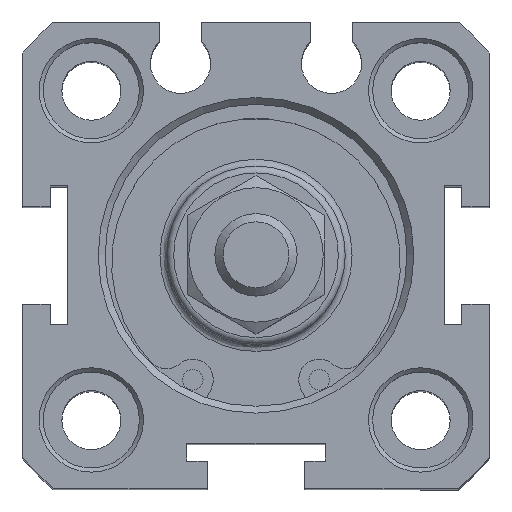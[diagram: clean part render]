
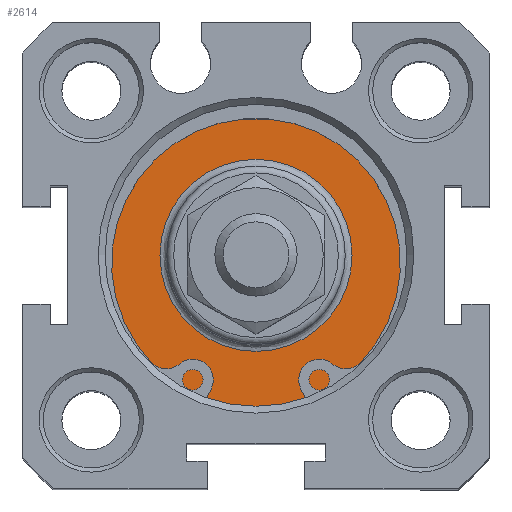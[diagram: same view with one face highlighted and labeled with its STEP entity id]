
A CAD part, top view. The second image highlights one B-rep face of the part: STEP entity #2614.
In plain terms, the highlighted planar face has unit normal (0, 0, 1).
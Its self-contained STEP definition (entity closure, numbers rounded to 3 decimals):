
#2552=CARTESIAN_POINT('',(0.957,6.522,56.8));
#2553=VERTEX_POINT('',#2552);
#2554=CARTESIAN_POINT('',(0.957,-0.478,56.8));
#2555=DIRECTION('',(0.0,0.0,1.0));
#2556=DIRECTION('',(0.0,-1.0,0.0));
#2557=AXIS2_PLACEMENT_3D('',#2554,#2555,#2556);
#2558=CIRCLE('',#2557,7.);
#2559=EDGE_CURVE('',#2553,#2553,#2558,.T.);
#2595=CARTESIAN_POINT('',(0.957,8.272,56.8));
#2596=DIRECTION('',(0.0,0.0,1.0));
#2597=DIRECTION('',(1.0,0.0,0.0));
#2598=AXIS2_PLACEMENT_3D('',#2595,#2596,#2597);
#2599=PLANE('',#2598);
#2600=CARTESIAN_POINT('',(0.957,10.522,56.8));
#2601=VERTEX_POINT('',#2600);
#2602=CARTESIAN_POINT('',(0.957,-0.478,56.8));
#2603=DIRECTION('',(0.0,0.0,1.0));
#2604=DIRECTION('',(0.0,1.0,0.0));
#2605=AXIS2_PLACEMENT_3D('',#2602,#2603,#2604);
#2606=CIRCLE('',#2605,11.);
#2607=EDGE_CURVE('',#2601,#2601,#2606,.T.);
#2608=ORIENTED_EDGE('',*,*,#2607,.T.);
#2609=EDGE_LOOP('',(#2608));
#2610=FACE_OUTER_BOUND('',#2609,.T.);
#2611=ORIENTED_EDGE('',*,*,#2559,.F.);
#2612=EDGE_LOOP('',(#2611));
#2613=FACE_BOUND('',#2612,.T.);
#2614=ADVANCED_FACE('',(#2610,#2613),#2599,.T.);
